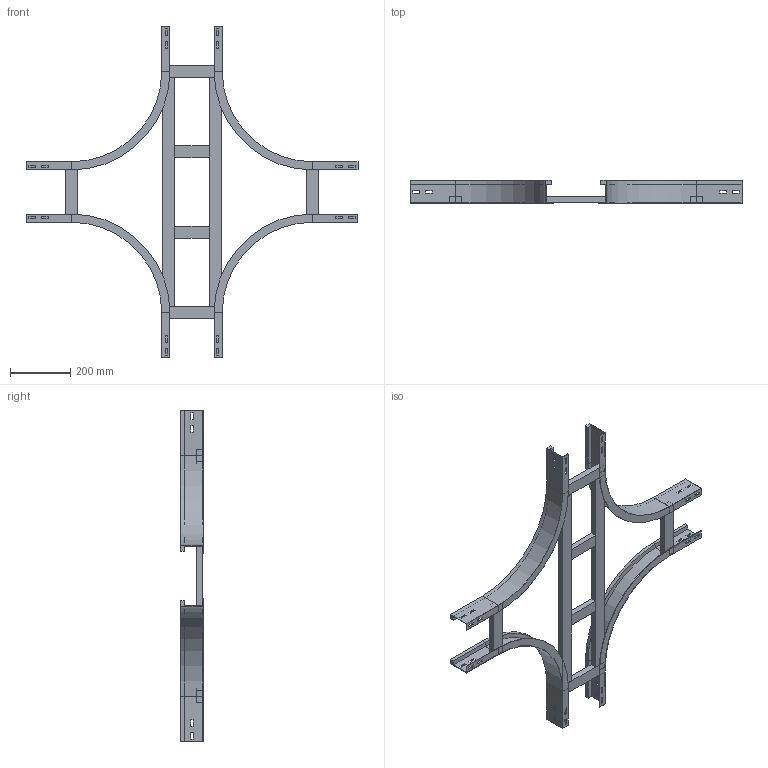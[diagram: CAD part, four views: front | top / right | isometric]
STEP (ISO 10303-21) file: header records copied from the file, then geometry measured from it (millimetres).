
FILE_DESCRIPTION (( 'STEP AP214' ), '1' );
FILE_NAME ('A2_17B3C200.step', '2025-02-21T15:58:26', ( '' ), ( '' ), 'SwSTEP 2.0', 'SolidWorks 2023', '' );
FILE_SCHEMA (( 'AUTOMOTIVE_DESIGN' ));
Length unit declared in the file: millimetre
Products named in the file (5): TRAVERSINO_INTERMEDIO_R300+200; TRAVERSINO_200; A2_TRAVERSINO_LONG._R300+200; A2_17B3C200; A2_LONGH.INTERNO 90°_H75_R300
Assembly tree (12 placements, depth 2):
  A2_17B3C200
    A2_LONGH.INTERNO 90°_H75_R300  x4
    TRAVERSINO_200  x4
    A2_TRAVERSINO_LONG._R300+200  x2
    TRAVERSINO_INTERMEDIO_R300+200  x2
Bounding box: 1100 x 75 x 1100 mm (x, y, z)
Volume: 3268738.1 mm3; surface area: 1053548.6 mm2
Topology: 12 solids, 12 shells, 280 faces, 704 edges, 448 vertices
Faces by surface type: plane 264, cylinder 16
Entity records: 2442 total; most frequent: CARTESIAN_POINT 399, DIRECTION 378, ORIENTED_EDGE 376, EDGE_CURVE 188, LINE 180, VECTOR 180, VERTEX_POINT 120, AXIS2_PLACEMENT_3D 99
